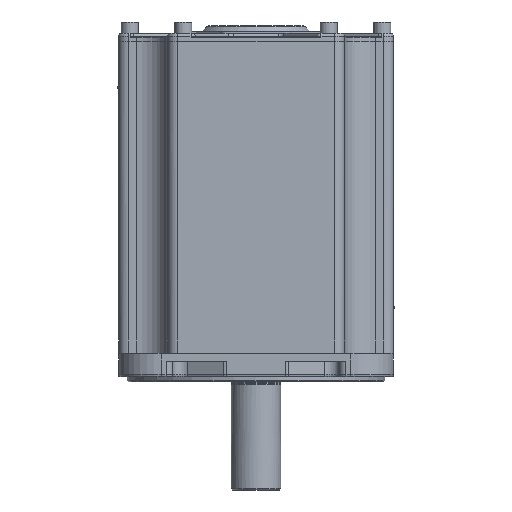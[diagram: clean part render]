
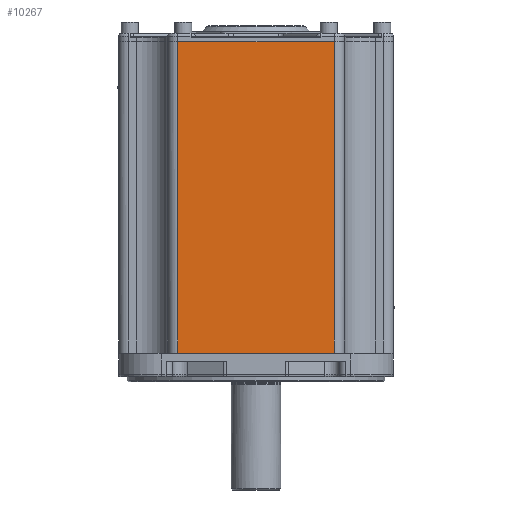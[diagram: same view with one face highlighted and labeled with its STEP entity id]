
A CAD part, front view. The second image highlights one B-rep face of the part: STEP entity #10267.
In plain terms, the highlighted planar face has unit normal (0, -1, 0).
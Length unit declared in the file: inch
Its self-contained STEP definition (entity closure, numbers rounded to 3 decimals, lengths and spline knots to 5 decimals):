
#10183=CARTESIAN_POINT('',(2.985,-5.25,12.35));
#10184=VERTEX_POINT('',#10183);
#10194=CARTESIAN_POINT('',(2.985,-5.25,0.45));
#10195=VERTEX_POINT('',#10194);
#10196=CARTESIAN_POINT('',(2.985,-5.25,12.35));
#10197=DIRECTION('',(0.0,0.0,-1.0));
#10198=VECTOR('',#10197,11.9);
#10199=LINE('',#10196,#10198);
#10200=EDGE_CURVE('',#10184,#10195,#10199,.T.);
#10224=CARTESIAN_POINT('',(-2.985,-5.25,0.45));
#10225=VERTEX_POINT('',#10224);
#10235=CARTESIAN_POINT('',(-2.985,-5.25,0.45));
#10236=DIRECTION('',(1.0,0.0,0.0));
#10237=VECTOR('',#10236,5.97);
#10238=LINE('',#10235,#10237);
#10239=EDGE_CURVE('',#10225,#10195,#10238,.T.);
#10244=CARTESIAN_POINT('',(3.375,-5.25,0.45));
#10245=DIRECTION('',(0.0,-1.0,0.0));
#10246=DIRECTION('',(0.0,0.0,-1.0));
#10247=AXIS2_PLACEMENT_3D('',#10244,#10245,#10246);
#10248=PLANE('',#10247);
#10249=CARTESIAN_POINT('',(-2.985,-5.25,12.35));
#10250=VERTEX_POINT('',#10249);
#10251=CARTESIAN_POINT('',(-2.985,-5.25,12.35));
#10252=DIRECTION('',(1.0,0.0,0.0));
#10253=VECTOR('',#10252,5.97);
#10254=LINE('',#10251,#10253);
#10255=EDGE_CURVE('',#10250,#10184,#10254,.T.);
#10256=ORIENTED_EDGE('',*,*,#10255,.F.);
#10257=CARTESIAN_POINT('',(-2.985,-5.25,0.45));
#10258=DIRECTION('',(0.0,0.0,1.0));
#10259=VECTOR('',#10258,11.9);
#10260=LINE('',#10257,#10259);
#10261=EDGE_CURVE('',#10225,#10250,#10260,.T.);
#10262=ORIENTED_EDGE('',*,*,#10261,.F.);
#10263=ORIENTED_EDGE('',*,*,#10239,.T.);
#10264=ORIENTED_EDGE('',*,*,#10200,.F.);
#10265=EDGE_LOOP('',(#10256,#10262,#10263,#10264));
#10266=FACE_OUTER_BOUND('',#10265,.T.);
#10267=ADVANCED_FACE('',(#10266),#10248,.T.);
